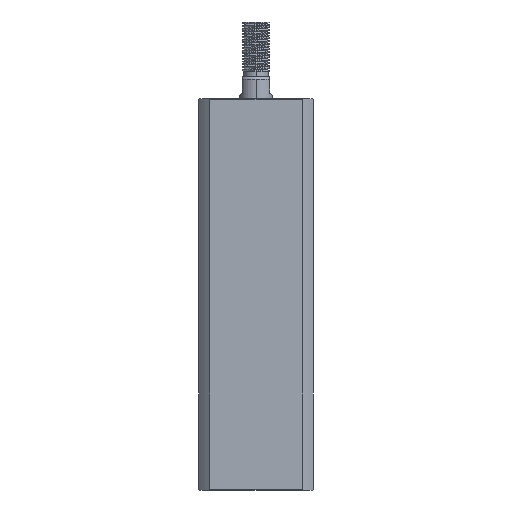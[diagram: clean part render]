
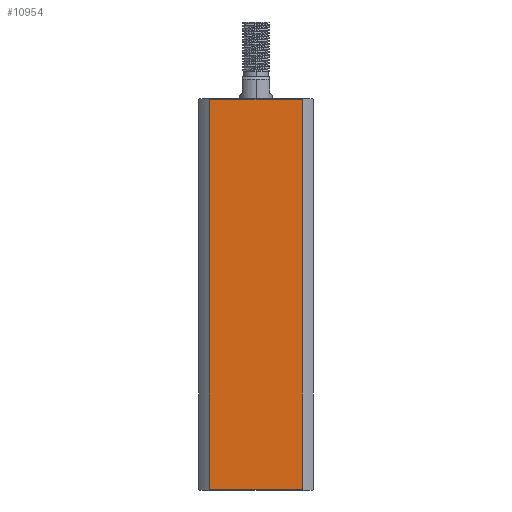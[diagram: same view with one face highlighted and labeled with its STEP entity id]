
A CAD part, left-side view. The second image highlights one B-rep face of the part: STEP entity #10954.
In plain terms, the highlighted planar face has unit normal (-1, 0, 0).
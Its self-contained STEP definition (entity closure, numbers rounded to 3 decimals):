
#69 = DIRECTION ( 'NONE',  ( 0., 0., -1. ) ) ;
#445 = DIRECTION ( 'NONE',  ( 0., 1., 0. ) ) ;
#485 = DIRECTION ( 'NONE',  ( 1., 0., 0. ) ) ;
#852 = VERTEX_POINT ( 'NONE', #2282 ) ;
#1036 = DIRECTION ( 'NONE',  ( 0., -1., 0. ) ) ;
#1102 = DIRECTION ( 'NONE',  ( 0., 0., 1. ) ) ;
#1606 = FACE_OUTER_BOUND ( 'NONE', #5994, .T. ) ;
#2214 = VECTOR ( 'NONE', #445, 1000. ) ;
#2282 = CARTESIAN_POINT ( 'NONE',  ( -21., -16.971, 0.3 ) ) ;
#2537 = ORIENTED_EDGE ( 'NONE', *, *, #6075, .F. ) ;
#2824 = CARTESIAN_POINT ( 'NONE',  ( -21., 21., 142.7 ) ) ;
#3133 = CARTESIAN_POINT ( 'NONE',  ( -21., 16.971, 142.7 ) ) ;
#4556 = ORIENTED_EDGE ( 'NONE', *, *, #6222, .F. ) ;
#4830 = LINE ( 'NONE', #11191, #13618 ) ;
#4943 = EDGE_CURVE ( 'NONE', #11334, #852, #4830, .T. ) ;
#5994 = EDGE_LOOP ( 'NONE', ( #2537, #13680, #4556, #12970 ) ) ;
#6075 = EDGE_CURVE ( 'NONE', #11334, #8909, #14429, .T. ) ;
#6222 = EDGE_CURVE ( 'NONE', #6285, #852, #7273, .T. ) ;
#6285 = VERTEX_POINT ( 'NONE', #8259 ) ;
#7273 = LINE ( 'NONE', #8171, #9981 ) ;
#8013 = VECTOR ( 'NONE', #1102, 1000. ) ;
#8019 = LINE ( 'NONE', #2824, #2214 ) ;
#8171 = CARTESIAN_POINT ( 'NONE',  ( -21., -16.971, -107. ) ) ;
#8259 = CARTESIAN_POINT ( 'NONE',  ( -21., -16.971, 142.7 ) ) ;
#8614 = DIRECTION ( 'NONE',  ( 0., 1., 0. ) ) ;
#8909 = VERTEX_POINT ( 'NONE', #3133 ) ;
#9202 = CARTESIAN_POINT ( 'NONE',  ( -21., 16.971, -107. ) ) ;
#9981 = VECTOR ( 'NONE', #69, 1000. ) ;
#10722 = AXIS2_PLACEMENT_3D ( 'NONE', #11997, #485, #8614 ) ;
#10954 = ADVANCED_FACE ( 'NONE', ( #1606 ), #14282, .F. ) ;
#11191 = CARTESIAN_POINT ( 'NONE',  ( -21., 21., 0.3 ) ) ;
#11334 = VERTEX_POINT ( 'NONE', #13055 ) ;
#11997 = CARTESIAN_POINT ( 'NONE',  ( -21., 21., 143. ) ) ;
#12970 = ORIENTED_EDGE ( 'NONE', *, *, #14392, .T. ) ;
#13055 = CARTESIAN_POINT ( 'NONE',  ( -21., 16.971, 0.3 ) ) ;
#13618 = VECTOR ( 'NONE', #1036, 1000. ) ;
#13680 = ORIENTED_EDGE ( 'NONE', *, *, #4943, .T. ) ;
#14282 = PLANE ( 'NONE',  #10722 ) ;
#14392 = EDGE_CURVE ( 'NONE', #6285, #8909, #8019, .T. ) ;
#14429 = LINE ( 'NONE', #9202, #8013 ) ;
